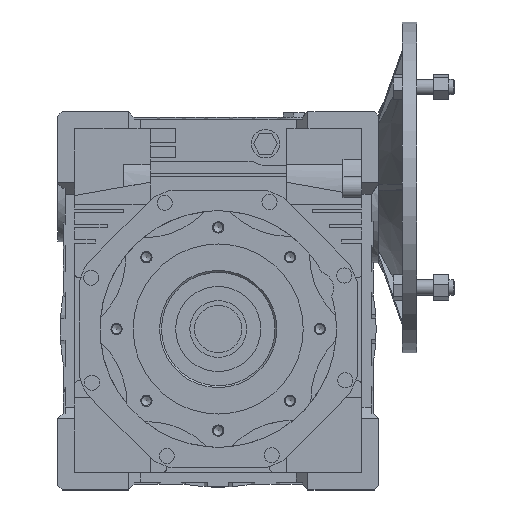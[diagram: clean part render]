
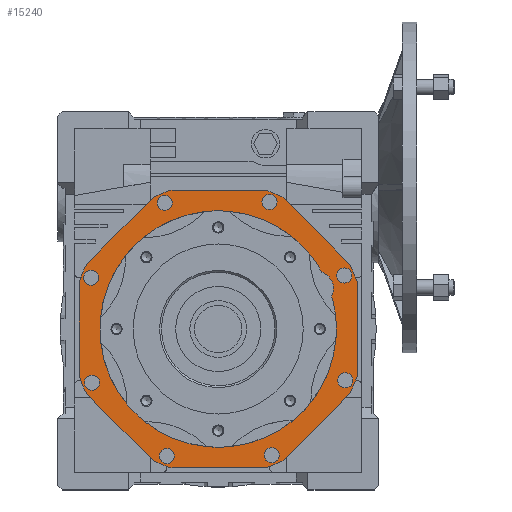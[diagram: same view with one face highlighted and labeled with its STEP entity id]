
A CAD part, top view. The second image highlights one B-rep face of the part: STEP entity #15240.
In plain terms, the highlighted planar face has unit normal (0, 0, 1) as drawn and (1, 0, 0) by its records, which use the part's own axes.
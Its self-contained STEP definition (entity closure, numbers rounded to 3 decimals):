
#1444=LINE('',#24008,#3056);
#1447=LINE('',#24016,#3059);
#1450=LINE('',#24024,#3062);
#1453=LINE('',#24032,#3065);
#1456=LINE('',#24040,#3068);
#1459=LINE('',#24048,#3071);
#1462=LINE('',#24056,#3074);
#1464=LINE('',#24062,#3076);
#3056=VECTOR('',#19365,1000.);
#3059=VECTOR('',#19374,1000.);
#3062=VECTOR('',#19383,1000.);
#3065=VECTOR('',#19392,1000.);
#3068=VECTOR('',#19401,1000.);
#3071=VECTOR('',#19410,1000.);
#3074=VECTOR('',#19419,1000.);
#3076=VECTOR('',#19427,1000.);
#5956=ORIENTED_EDGE('',*,*,#9203,.F.);
#5957=ORIENTED_EDGE('',*,*,#9204,.F.);
#5958=ORIENTED_EDGE('',*,*,#9205,.F.);
#5959=ORIENTED_EDGE('',*,*,#9206,.F.);
#5960=ORIENTED_EDGE('',*,*,#9207,.F.);
#5961=ORIENTED_EDGE('',*,*,#9208,.F.);
#5962=ORIENTED_EDGE('',*,*,#9209,.F.);
#5963=ORIENTED_EDGE('',*,*,#9210,.F.);
#5964=ORIENTED_EDGE('',*,*,#9211,.T.);
#5965=ORIENTED_EDGE('',*,*,#8264,.T.);
#5966=ORIENTED_EDGE('',*,*,#9172,.T.);
#5967=ORIENTED_EDGE('',*,*,#9175,.T.);
#5968=ORIENTED_EDGE('',*,*,#9177,.T.);
#5969=ORIENTED_EDGE('',*,*,#9179,.T.);
#5970=ORIENTED_EDGE('',*,*,#9181,.T.);
#5971=ORIENTED_EDGE('',*,*,#9183,.T.);
#5972=ORIENTED_EDGE('',*,*,#9185,.T.);
#5973=ORIENTED_EDGE('',*,*,#9187,.T.);
#5974=ORIENTED_EDGE('',*,*,#9189,.T.);
#5975=ORIENTED_EDGE('',*,*,#9191,.T.);
#5976=ORIENTED_EDGE('',*,*,#9193,.T.);
#5977=ORIENTED_EDGE('',*,*,#9195,.T.);
#5978=ORIENTED_EDGE('',*,*,#9197,.T.);
#5979=ORIENTED_EDGE('',*,*,#9199,.T.);
#5980=ORIENTED_EDGE('',*,*,#9201,.T.);
#5981=ORIENTED_EDGE('',*,*,#9202,.T.);
#8264=EDGE_CURVE('',#10353,#10352,#11584,.F.);
#9172=EDGE_CURVE('',#10932,#10931,#11717,.T.);
#9175=EDGE_CURVE('',#10931,#10933,#1444,.T.);
#9177=EDGE_CURVE('',#10933,#10934,#11718,.T.);
#9179=EDGE_CURVE('',#10934,#10935,#1447,.T.);
#9181=EDGE_CURVE('',#10935,#10936,#11719,.T.);
#9183=EDGE_CURVE('',#10936,#10937,#1450,.T.);
#9185=EDGE_CURVE('',#10937,#10938,#11720,.T.);
#9187=EDGE_CURVE('',#10938,#10939,#1453,.T.);
#9189=EDGE_CURVE('',#10939,#10940,#11721,.T.);
#9191=EDGE_CURVE('',#10940,#10941,#1456,.T.);
#9193=EDGE_CURVE('',#10941,#10942,#11722,.T.);
#9195=EDGE_CURVE('',#10942,#10943,#1459,.T.);
#9197=EDGE_CURVE('',#10943,#10944,#11723,.T.);
#9199=EDGE_CURVE('',#10944,#10945,#1462,.T.);
#9201=EDGE_CURVE('',#10945,#10946,#11724,.T.);
#9202=EDGE_CURVE('',#10946,#10932,#1464,.T.);
#9203=EDGE_CURVE('',#10947,#10947,#11725,.T.);
#9204=EDGE_CURVE('',#10948,#10948,#11726,.T.);
#9205=EDGE_CURVE('',#10949,#10949,#11727,.T.);
#9206=EDGE_CURVE('',#10950,#10950,#11728,.T.);
#9207=EDGE_CURVE('',#10951,#10951,#11729,.T.);
#9208=EDGE_CURVE('',#10952,#10952,#11730,.T.);
#9209=EDGE_CURVE('',#10953,#10953,#11731,.T.);
#9210=EDGE_CURVE('',#10954,#10954,#11732,.T.);
#9211=EDGE_CURVE('',#10352,#10353,#11733,.F.);
#10352=VERTEX_POINT('',#22193);
#10353=VERTEX_POINT('',#22195);
#10931=VERTEX_POINT('',#24001);
#10932=VERTEX_POINT('',#24003);
#10933=VERTEX_POINT('',#24007);
#10934=VERTEX_POINT('',#24011);
#10935=VERTEX_POINT('',#24015);
#10936=VERTEX_POINT('',#24019);
#10937=VERTEX_POINT('',#24023);
#10938=VERTEX_POINT('',#24027);
#10939=VERTEX_POINT('',#24031);
#10940=VERTEX_POINT('',#24035);
#10941=VERTEX_POINT('',#24039);
#10942=VERTEX_POINT('',#24043);
#10943=VERTEX_POINT('',#24047);
#10944=VERTEX_POINT('',#24051);
#10945=VERTEX_POINT('',#24055);
#10946=VERTEX_POINT('',#24059);
#10947=VERTEX_POINT('',#24065);
#10948=VERTEX_POINT('',#24067);
#10949=VERTEX_POINT('',#24069);
#10950=VERTEX_POINT('',#24071);
#10951=VERTEX_POINT('',#24073);
#10952=VERTEX_POINT('',#24075);
#10953=VERTEX_POINT('',#24077);
#10954=VERTEX_POINT('',#24079);
#11584=CIRCLE('',#15844,18.);
#11717=CIRCLE('',#16328,155.25);
#11718=CIRCLE('',#16331,155.25);
#11719=CIRCLE('',#16334,155.25);
#11720=CIRCLE('',#16337,155.25);
#11721=CIRCLE('',#16340,155.25);
#11722=CIRCLE('',#16343,155.25);
#11723=CIRCLE('',#16346,155.25);
#11724=CIRCLE('',#16349,155.25);
#11725=CIRCLE('',#16352,8.);
#11726=CIRCLE('',#16353,8.);
#11727=CIRCLE('',#16354,8.);
#11728=CIRCLE('',#16355,8.);
#11729=CIRCLE('',#16356,8.);
#11730=CIRCLE('',#16357,8.);
#11731=CIRCLE('',#16358,8.);
#11732=CIRCLE('',#16359,8.);
#11733=CIRCLE('',#16360,125.);
#12425=EDGE_LOOP('',(#5956));
#12426=EDGE_LOOP('',(#5957));
#12427=EDGE_LOOP('',(#5958));
#12428=EDGE_LOOP('',(#5959));
#12429=EDGE_LOOP('',(#5960));
#12430=EDGE_LOOP('',(#5961));
#12431=EDGE_LOOP('',(#5962));
#12432=EDGE_LOOP('',(#5963));
#12433=EDGE_LOOP('',(#5964,#5965));
#12434=EDGE_LOOP('',(#5966,#5967,#5968,#5969,#5970,#5971,#5972,#5973,#5974,
#5975,#5976,#5977,#5978,#5979,#5980,#5981));
#13520=FACE_BOUND('',#12425,.T.);
#13521=FACE_BOUND('',#12426,.T.);
#13522=FACE_BOUND('',#12427,.T.);
#13523=FACE_BOUND('',#12428,.T.);
#13524=FACE_BOUND('',#12429,.T.);
#13525=FACE_BOUND('',#12430,.T.);
#13526=FACE_BOUND('',#12431,.T.);
#13527=FACE_BOUND('',#12432,.T.);
#13528=FACE_BOUND('',#12433,.T.);
#13529=FACE_BOUND('',#12434,.T.);
#14537=PLANE('',#16351);
#15240=ADVANCED_FACE('',(#13520,#13521,#13522,#13523,#13524,#13525,#13526,
#13527,#13528,#13529),#14537,.T.);
#15844=AXIS2_PLACEMENT_3D('',#22194,#17646,#17647);
#16328=AXIS2_PLACEMENT_3D('',#24002,#19359,#19360);
#16331=AXIS2_PLACEMENT_3D('',#24012,#19369,#19370);
#16334=AXIS2_PLACEMENT_3D('',#24020,#19378,#19379);
#16337=AXIS2_PLACEMENT_3D('',#24028,#19387,#19388);
#16340=AXIS2_PLACEMENT_3D('',#24036,#19396,#19397);
#16343=AXIS2_PLACEMENT_3D('',#24044,#19405,#19406);
#16346=AXIS2_PLACEMENT_3D('',#24052,#19414,#19415);
#16349=AXIS2_PLACEMENT_3D('',#24060,#19423,#19424);
#16351=AXIS2_PLACEMENT_3D('',#24063,#19428,#19429);
#16352=AXIS2_PLACEMENT_3D('',#24064,#19430,#19431);
#16353=AXIS2_PLACEMENT_3D('',#24066,#19432,#19433);
#16354=AXIS2_PLACEMENT_3D('',#24068,#19434,#19435);
#16355=AXIS2_PLACEMENT_3D('',#24070,#19436,#19437);
#16356=AXIS2_PLACEMENT_3D('',#24072,#19438,#19439);
#16357=AXIS2_PLACEMENT_3D('',#24074,#19440,#19441);
#16358=AXIS2_PLACEMENT_3D('',#24076,#19442,#19443);
#16359=AXIS2_PLACEMENT_3D('',#24078,#19444,#19445);
#16360=AXIS2_PLACEMENT_3D('',#24080,#19446,#19447);
#17646=DIRECTION('',(1.,0.,0.));
#17647=DIRECTION('',(0.,0.,-1.));
#19359=DIRECTION('',(1.,0.,0.));
#19360=DIRECTION('',(0.,0.,-1.));
#19365=DIRECTION('',(0.,-1.,0.));
#19369=DIRECTION('',(1.,0.,0.));
#19370=DIRECTION('',(0.,0.,-1.));
#19374=DIRECTION('',(0.,-0.707,-0.707));
#19378=DIRECTION('',(1.,0.,0.));
#19379=DIRECTION('',(0.,0.,-1.));
#19383=DIRECTION('',(0.,0.,-1.));
#19387=DIRECTION('',(1.,0.,0.));
#19388=DIRECTION('',(0.,0.,-1.));
#19392=DIRECTION('',(0.,0.707,-0.707));
#19396=DIRECTION('',(1.,0.,0.));
#19397=DIRECTION('',(0.,0.,-1.));
#19401=DIRECTION('',(0.,1.,0.));
#19405=DIRECTION('',(1.,0.,0.));
#19406=DIRECTION('',(0.,0.,-1.));
#19410=DIRECTION('',(0.,0.707,0.707));
#19414=DIRECTION('',(1.,0.,0.));
#19415=DIRECTION('',(0.,0.,-1.));
#19419=DIRECTION('',(0.,0.,1.));
#19423=DIRECTION('',(1.,0.,0.));
#19424=DIRECTION('',(0.,0.,-1.));
#19427=DIRECTION('',(0.,-0.707,0.707));
#19428=DIRECTION('',(1.,0.,0.));
#19429=DIRECTION('',(0.,0.,-1.));
#19430=DIRECTION('',(1.,0.,0.));
#19431=DIRECTION('',(0.,0.,-1.));
#19432=DIRECTION('',(1.,0.,0.));
#19433=DIRECTION('',(0.,0.,-1.));
#19434=DIRECTION('',(1.,0.,0.));
#19435=DIRECTION('',(0.,0.,-1.));
#19436=DIRECTION('',(1.,0.,0.));
#19437=DIRECTION('',(0.,0.,-1.));
#19438=DIRECTION('',(1.,0.,0.));
#19439=DIRECTION('',(0.,0.,-1.));
#19440=DIRECTION('',(1.,0.,0.));
#19441=DIRECTION('',(0.,0.,-1.));
#19442=DIRECTION('',(1.,0.,0.));
#19443=DIRECTION('',(0.,0.,-1.));
#19444=DIRECTION('',(1.,0.,0.));
#19445=DIRECTION('',(0.,0.,-1.));
#19446=DIRECTION('',(1.,0.,0.));
#19447=DIRECTION('',(0.,0.,-1.));
#22193=CARTESIAN_POINT('',(85.,120.015,34.95));
#22194=CARTESIAN_POINT('',(85.,103.94,43.05));
#22195=CARTESIAN_POINT('',(85.,109.58,60.144));
#24001=CARTESIAN_POINT('',(85.,49.935,147.));
#24002=CARTESIAN_POINT('',(85.,0.,0.));
#24003=CARTESIAN_POINT('',(85.,68.635,139.254));
#24007=CARTESIAN_POINT('',(85.,-49.935,147.));
#24008=CARTESIAN_POINT('',(85.,49.935,147.));
#24011=CARTESIAN_POINT('',(85.,-68.635,139.254));
#24012=CARTESIAN_POINT('',(85.,0.,0.));
#24015=CARTESIAN_POINT('',(85.,-139.254,68.635));
#24016=CARTESIAN_POINT('',(85.,-68.635,139.254));
#24019=CARTESIAN_POINT('',(85.,-147.,49.935));
#24020=CARTESIAN_POINT('',(85.,0.,0.));
#24023=CARTESIAN_POINT('',(85.,-147.,-49.935));
#24024=CARTESIAN_POINT('',(85.,-147.,49.935));
#24027=CARTESIAN_POINT('',(85.,-139.254,-68.635));
#24028=CARTESIAN_POINT('',(85.,0.,0.));
#24031=CARTESIAN_POINT('',(85.,-68.635,-139.254));
#24032=CARTESIAN_POINT('',(85.,-139.254,-68.635));
#24035=CARTESIAN_POINT('',(85.,-49.935,-147.));
#24036=CARTESIAN_POINT('',(85.,0.,0.));
#24039=CARTESIAN_POINT('',(85.,49.935,-147.));
#24040=CARTESIAN_POINT('',(85.,-49.935,-147.));
#24043=CARTESIAN_POINT('',(85.,68.635,-139.254));
#24044=CARTESIAN_POINT('',(85.,0.,0.));
#24047=CARTESIAN_POINT('',(85.,139.254,-68.635));
#24048=CARTESIAN_POINT('',(85.,68.635,-139.254));
#24051=CARTESIAN_POINT('',(85.,147.,-49.935));
#24052=CARTESIAN_POINT('',(85.,0.,0.));
#24055=CARTESIAN_POINT('',(85.,147.,49.935));
#24056=CARTESIAN_POINT('',(85.,147.,-49.935));
#24059=CARTESIAN_POINT('',(85.,139.254,68.635));
#24060=CARTESIAN_POINT('',(85.,0.,0.));
#24062=CARTESIAN_POINT('',(85.,139.254,68.635));
#24063=CARTESIAN_POINT('',(85.,0.,0.));
#24064=CARTESIAN_POINT('',(85.,134.442,-54.318));
#24065=CARTESIAN_POINT('',(85.,134.442,-62.318));
#24066=CARTESIAN_POINT('',(85.,56.656,-133.473));
#24067=CARTESIAN_POINT('',(85.,56.656,-141.473));
#24068=CARTESIAN_POINT('',(85.,-54.318,-134.442));
#24069=CARTESIAN_POINT('',(85.,-54.318,-142.442));
#24070=CARTESIAN_POINT('',(85.,-133.473,-56.656));
#24071=CARTESIAN_POINT('',(85.,-133.473,-64.656));
#24072=CARTESIAN_POINT('',(85.,-134.442,54.318));
#24073=CARTESIAN_POINT('',(85.,-134.442,46.318));
#24074=CARTESIAN_POINT('',(85.,-56.656,133.473));
#24075=CARTESIAN_POINT('',(85.,-56.656,125.473));
#24076=CARTESIAN_POINT('',(85.,54.318,134.442));
#24077=CARTESIAN_POINT('',(85.,54.318,126.442));
#24078=CARTESIAN_POINT('',(85.,133.473,56.656));
#24079=CARTESIAN_POINT('',(85.,133.473,48.656));
#24080=CARTESIAN_POINT('',(85.,0.,0.));
